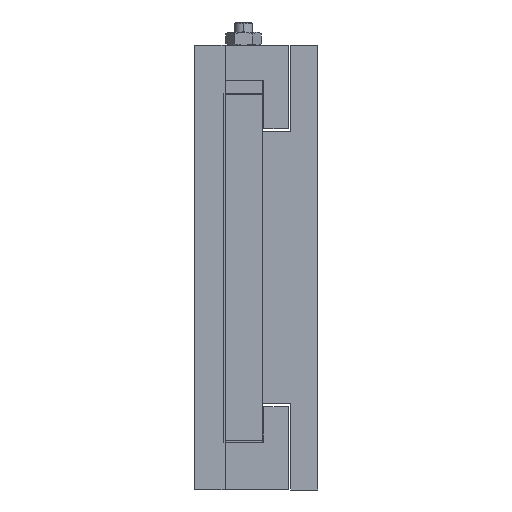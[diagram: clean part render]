
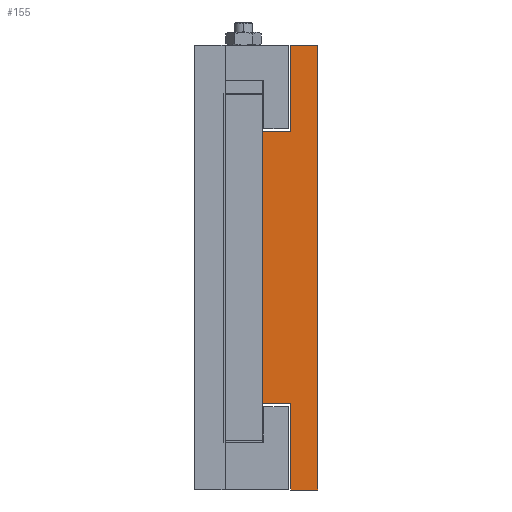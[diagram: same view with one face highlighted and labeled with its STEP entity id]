
A CAD part, left-side view. The second image highlights one B-rep face of the part: STEP entity #155.
In plain terms, the highlighted planar face has unit normal (-1, 0, 0).
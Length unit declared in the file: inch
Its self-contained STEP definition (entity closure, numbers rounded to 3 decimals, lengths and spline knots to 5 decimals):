
#151 = EDGE_CURVE ( 'NONE', #475, #504, #1804, .T. ) ;
#152 = VERTEX_POINT ( 'NONE', #1797 ) ;
#154 = VERTEX_POINT ( 'NONE', #1810 ) ;
#155 = ADVANCED_FACE ( 'NONE', ( #1796 ), #1793, .F. ) ;
#156 = VERTEX_POINT ( 'NONE', #1798 ) ;
#162 = EDGE_CURVE ( 'NONE', #451, #475, #1845, .T. ) ;
#163 = ORIENTED_EDGE ( 'NONE', *, *, #162, .T. ) ;
#165 = EDGE_CURVE ( 'NONE', #152, #439, #1836, .T. ) ;
#166 = ORIENTED_EDGE ( 'NONE', *, *, #165, .T. ) ;
#206 = ORIENTED_EDGE ( 'NONE', *, *, #7248, .T. ) ;
#212 = ORIENTED_EDGE ( 'NONE', *, *, #515, .F. ) ;
#437 = EDGE_CURVE ( 'NONE', #451, #439, #2260, .T. ) ;
#438 = ORIENTED_EDGE ( 'NONE', *, *, #7241, .F. ) ;
#439 = VERTEX_POINT ( 'NONE', #2251 ) ;
#451 = VERTEX_POINT ( 'NONE', #2249 ) ;
#475 = VERTEX_POINT ( 'NONE', #2318 ) ;
#492 = EDGE_LOOP ( 'NONE', ( #163, #523, #212, #438, #7215, #206, #166, #7221 ) ) ;
#504 = VERTEX_POINT ( 'NONE', #2332 ) ;
#513 = VERTEX_POINT ( 'NONE', #2383 ) ;
#515 = EDGE_CURVE ( 'NONE', #156, #504, #2370, .T. ) ;
#523 = ORIENTED_EDGE ( 'NONE', *, *, #151, .T. ) ;
#1791 = DIRECTION ( 'NONE',  ( 0., 0., -1. ) ) ;
#1793 = PLANE ( 'NONE',  #1806 ) ;
#1794 = DIRECTION ( 'NONE',  ( 0., 0., -1. ) ) ;
#1795 = VECTOR ( 'NONE', #1794, 39.37008 ) ;
#1796 = FACE_OUTER_BOUND ( 'NONE', #492, .T. ) ;
#1797 = CARTESIAN_POINT ( 'NONE',  ( 0., 0.54688, 2.75 ) ) ;
#1798 = CARTESIAN_POINT ( 'NONE',  ( 0., 0., -4.5 ) ) ;
#1804 = LINE ( 'NONE', #1807, #1795 ) ;
#1805 = CARTESIAN_POINT ( 'NONE',  ( 0., 0., 4.5 ) ) ;
#1806 = AXIS2_PLACEMENT_3D ( 'NONE', #1805, #1809, #1791 ) ;
#1807 = CARTESIAN_POINT ( 'NONE',  ( 0., 0.54688, -4.5 ) ) ;
#1809 = DIRECTION ( 'NONE',  ( 1., 0., 0. ) ) ;
#1810 = CARTESIAN_POINT ( 'NONE',  ( 0., 0., 4.5 ) ) ;
#1833 = DIRECTION ( 'NONE',  ( 0., 1., 0. ) ) ;
#1834 = VECTOR ( 'NONE', #1833, 39.37008 ) ;
#1835 = CARTESIAN_POINT ( 'NONE',  ( 0., 1.125, 2.75 ) ) ;
#1836 = LINE ( 'NONE', #1835, #1834 ) ;
#1842 = DIRECTION ( 'NONE',  ( 0., -1., 0. ) ) ;
#1843 = VECTOR ( 'NONE', #1842, 39.37008 ) ;
#1844 = CARTESIAN_POINT ( 'NONE',  ( 0., 1.125, -2.75 ) ) ;
#1845 = LINE ( 'NONE', #1844, #1843 ) ;
#2249 = CARTESIAN_POINT ( 'NONE',  ( 0., 1.125, -2.75 ) ) ;
#2251 = CARTESIAN_POINT ( 'NONE',  ( 0., 1.125, 2.75 ) ) ;
#2259 = CARTESIAN_POINT ( 'NONE',  ( 0., 1.125, 4.5 ) ) ;
#2260 = LINE ( 'NONE', #2259, #2265 ) ;
#2264 = DIRECTION ( 'NONE',  ( 0., 0., 1. ) ) ;
#2265 = VECTOR ( 'NONE', #2264, 39.37008 ) ;
#2318 = CARTESIAN_POINT ( 'NONE',  ( 0., 0.54688, -2.75 ) ) ;
#2332 = CARTESIAN_POINT ( 'NONE',  ( 0., 0.54688, -4.5 ) ) ;
#2367 = DIRECTION ( 'NONE',  ( 0., 1., 0. ) ) ;
#2368 = VECTOR ( 'NONE', #2367, 39.37008 ) ;
#2369 = CARTESIAN_POINT ( 'NONE',  ( 0., 1.125, -4.5 ) ) ;
#2370 = LINE ( 'NONE', #2369, #2368 ) ;
#2383 = CARTESIAN_POINT ( 'NONE',  ( 0., 0.54688, 4.5 ) ) ;
#5855 = CARTESIAN_POINT ( 'NONE',  ( 0., 0.54688, 4.5 ) ) ;
#5856 = LINE ( 'NONE', #5855, #5900 ) ;
#5858 = DIRECTION ( 'NONE',  ( 0., -1., 0. ) ) ;
#5859 = VECTOR ( 'NONE', #5858, 39.37008 ) ;
#5860 = CARTESIAN_POINT ( 'NONE',  ( 0., 1.125, 4.5 ) ) ;
#5861 = LINE ( 'NONE', #5860, #5859 ) ;
#5869 = LINE ( 'NONE', #5871, #5904 ) ;
#5871 = CARTESIAN_POINT ( 'NONE',  ( 0., 0., 4.5 ) ) ;
#5899 = DIRECTION ( 'NONE',  ( 0., 0., -1. ) ) ;
#5900 = VECTOR ( 'NONE', #5899, 39.37008 ) ;
#5903 = DIRECTION ( 'NONE',  ( 0., 0., -1. ) ) ;
#5904 = VECTOR ( 'NONE', #5903, 39.37008 ) ;
#7215 = ORIENTED_EDGE ( 'NONE', *, *, #7238, .F. ) ;
#7221 = ORIENTED_EDGE ( 'NONE', *, *, #437, .F. ) ;
#7238 = EDGE_CURVE ( 'NONE', #513, #154, #5861, .T. ) ;
#7241 = EDGE_CURVE ( 'NONE', #154, #156, #5869, .T. ) ;
#7248 = EDGE_CURVE ( 'NONE', #513, #152, #5856, .T. ) ;
